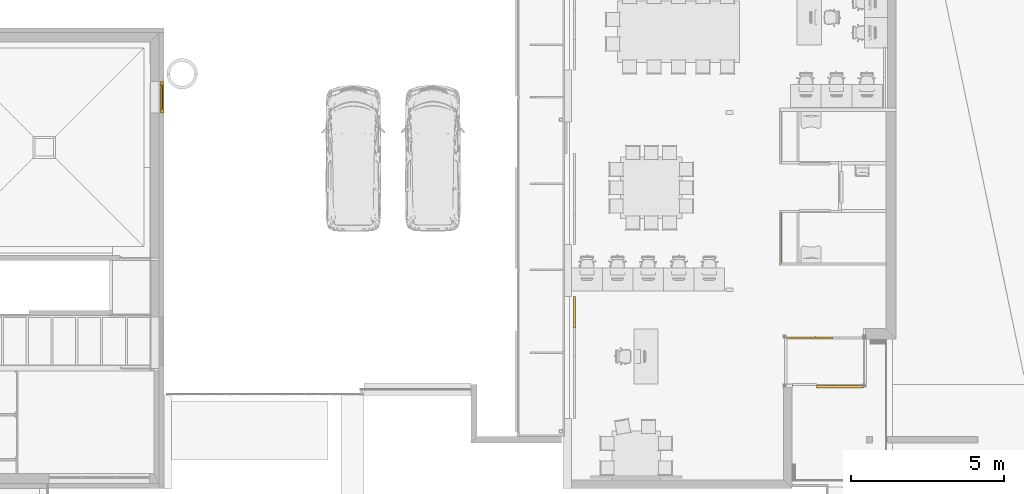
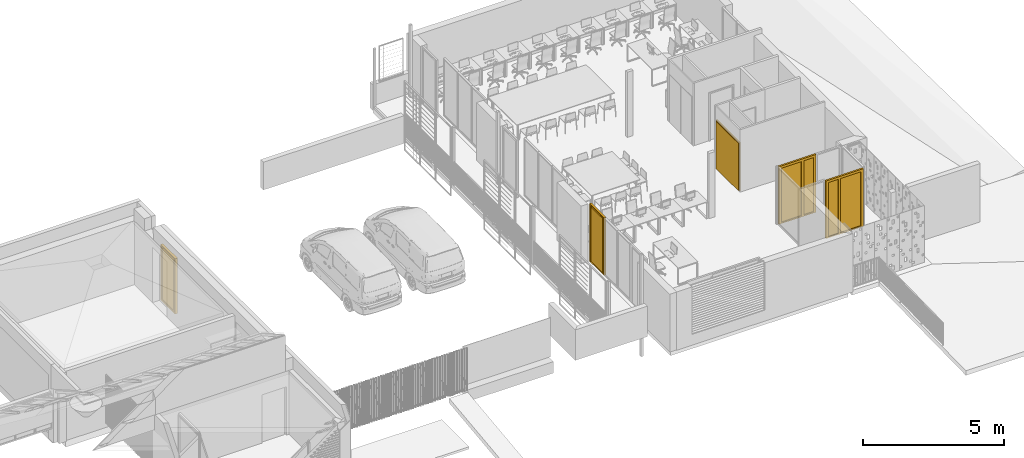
# One storey, part 32 of 51: 4 windows, 1 door.
"""IFC2X3 building model written with IfcOpenShell, lengths in metres."""

from ifc_helpers import new_model, entity, si_unit, converted_unit, derived_unit, direction, frame, origin, place, context, subcontext, project, spatial, faceted_brep, source, transform, mapped, material, type_object, type_shapes, element, save


model = new_model("IFC2X3")

# Units and contexts
model_context = context("Model", 3, precision=1e-05, world=origin(), true_north=direction((6.123031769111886e-17, 1.0)))
body_context = subcontext(model_context, "Body", "Model", "MODEL_VIEW")
ifc_project = project(units=[si_unit("LENGTHUNIT", "METRE"), si_unit("AREAUNIT", "SQUARE_METRE"), si_unit("VOLUMEUNIT", "CUBIC_METRE"), converted_unit("PLANEANGLEUNIT", "DEGREE", entity("IfcRatioMeasure", 0.017453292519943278), si_unit("PLANEANGLEUNIT", "RADIAN"), dimensions=[0, 0, 0, 0, 0, 0, 0]), si_unit("MASSUNIT", "GRAM", prefix="KILO"), derived_unit("MASSDENSITYUNIT", [(si_unit("MASSUNIT", "GRAM", prefix="KILO"), 1), (si_unit("LENGTHUNIT", "METRE"), -3)]), derived_unit("MOMENTOFINERTIAUNIT", [(si_unit("LENGTHUNIT", "METRE"), 4)]), si_unit("TIMEUNIT", "SECOND"), si_unit("FREQUENCYUNIT", "HERTZ"), si_unit("THERMODYNAMICTEMPERATUREUNIT", "DEGREE_CELSIUS"), derived_unit("THERMALTRANSMITTANCEUNIT", [(si_unit("MASSUNIT", "GRAM", prefix="KILO"), 1), (si_unit("THERMODYNAMICTEMPERATUREUNIT", "KELVIN"), -1), (si_unit("TIMEUNIT", "SECOND"), -3)]), derived_unit("THERMALCONDUCTANCEUNIT", [(si_unit("MASSUNIT", "GRAM", prefix="KILO"), 1), (si_unit("LENGTHUNIT", "METRE"), 1), (si_unit("THERMODYNAMICTEMPERATUREUNIT", "KELVIN"), -1), (si_unit("TIMEUNIT", "SECOND"), -3)]), derived_unit("VOLUMETRICFLOWRATEUNIT", [(si_unit("LENGTHUNIT", "METRE"), 3), (si_unit("TIMEUNIT", "SECOND"), -1)]), derived_unit("MASSFLOWRATEUNIT", [(si_unit("MASSUNIT", "GRAM", prefix="KILO"), 1), (si_unit("TIMEUNIT", "SECOND"), -1)]), derived_unit("ROTATIONALFREQUENCYUNIT", [(si_unit("TIMEUNIT", "SECOND"), -1)]), si_unit("ELECTRICCURRENTUNIT", "AMPERE"), si_unit("ELECTRICVOLTAGEUNIT", "VOLT"), si_unit("POWERUNIT", "WATT"), si_unit("FORCEUNIT", "NEWTON", prefix="KILO"), si_unit("ILLUMINANCEUNIT", "LUX"), si_unit("LUMINOUSFLUXUNIT", "LUMEN"), si_unit("LUMINOUSINTENSITYUNIT", "CANDELA"), derived_unit("USERDEFINED", [(si_unit("MASSUNIT", "GRAM", prefix="KILO"), -1), (si_unit("LENGTHUNIT", "METRE"), -2), (si_unit("TIMEUNIT", "SECOND"), 3), (si_unit("LUMINOUSFLUXUNIT", "LUMEN"), 1)]), derived_unit("USERDEFINED", [(si_unit("MASSUNIT", "GRAM", prefix="KILO"), 1), (si_unit("LENGTHUNIT", "METRE"), 3), (si_unit("TIMEUNIT", "SECOND"), -3), (si_unit("ELECTRICCURRENTUNIT", "AMPERE"), -2)]), derived_unit("USERDEFINED", [(si_unit("LENGTHUNIT", "METRE"), 2), (si_unit("TIMEUNIT", "SECOND"), -2)]), derived_unit("SOUNDPOWERUNIT", [(si_unit("MASSUNIT", "GRAM", prefix="KILO"), 1), (si_unit("LENGTHUNIT", "METRE"), 2), (si_unit("TIMEUNIT", "SECOND"), -3)]), derived_unit("SOUNDPRESSUREUNIT", [(si_unit("MASSUNIT", "GRAM", prefix="KILO"), 1), (si_unit("LENGTHUNIT", "METRE"), -1), (si_unit("TIMEUNIT", "SECOND"), -2)]), derived_unit("LINEARVELOCITYUNIT", [(si_unit("LENGTHUNIT", "METRE"), 1), (si_unit("TIMEUNIT", "SECOND"), -1)]), si_unit("PRESSUREUNIT", "PASCAL"), derived_unit("USERDEFINED", [(si_unit("LENGTHUNIT", "METRE"), -2), (si_unit("MASSUNIT", "GRAM", prefix="KILO"), 1), (si_unit("TIMEUNIT", "SECOND"), -2)]), derived_unit("LINEARFORCEUNIT", [(si_unit("MASSUNIT", "GRAM", prefix="KILO"), 1), (si_unit("LENGTHUNIT", "METRE"), 1), (si_unit("TIMEUNIT", "SECOND"), -2), (si_unit("LENGTHUNIT", "METRE"), -1)]), derived_unit("PLANARFORCEUNIT", [(si_unit("MASSUNIT", "GRAM", prefix="KILO"), 1), (si_unit("LENGTHUNIT", "METRE"), 1), (si_unit("TIMEUNIT", "SECOND"), -2), (si_unit("LENGTHUNIT", "METRE"), -2)]), derived_unit("SPECIFICHEATCAPACITYUNIT", [(si_unit("LENGTHUNIT", "METRE"), 2), (si_unit("TIMEUNIT", "SECOND"), -2), (si_unit("THERMODYNAMICTEMPERATUREUNIT", "KELVIN"), -1)]), derived_unit("VAPORPERMEABILITYUNIT", [(si_unit("TIMEUNIT", "SECOND"), 1), (si_unit("LENGTHUNIT", "METRE"), -1)]), derived_unit("DYNAMICVISCOSITYUNIT", [(si_unit("MASSUNIT", "GRAM", prefix="KILO"), 1), (si_unit("LENGTHUNIT", "METRE"), -1), (si_unit("TIMEUNIT", "SECOND"), -1)]), derived_unit("THERMALEXPANSIONCOEFFICIENTUNIT", [(si_unit("THERMODYNAMICTEMPERATUREUNIT", "KELVIN"), -1)])], contexts=[model_context])

# Site, building, storey
site_placement = place(None, origin())
site = spatial("IfcSite", under=ifc_project, at=site_placement, Name="Default", CompositionType="ELEMENT")
building_placement = place(site_placement, origin())
building = spatial("IfcBuilding", under=site, at=building_placement, CompositionType="ELEMENT")
storey_placement = place(building_placement, frame((0.0, 0.0, 3.06)))
storey = spatial("IfcBuildingStorey", under=building, at=storey_placement, Name="ÉTAGE", CompositionType="ELEMENT", Elevation=3.06)

# Windows
ifc_material_1 = material(Name="Peinture - Anthracite")
window_style_1 = type_object("IfcWindowStyle", Name="Fen-003", ConstructionType="NOTDEFINED", OperationType="NOTDEFINED", ParameterTakesPrecedence=False, Sizeable=False, material=ifc_material_1)
shared_shape_1 = source(origin(), body_context, "Body", "Brep", [
    faceted_brep([(1.0300000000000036, -0.0029000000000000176, 0.0), (1.0300000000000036, -0.10290000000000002, 0.0), (0.0, -0.10290000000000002, 0.0), (0.0, -0.0029000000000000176, 0.0), (1.0300000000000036, -0.0029000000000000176, 2.3999999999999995), (1.0300000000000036, -0.10290000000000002, 2.3999999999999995), (0.0, -0.10290000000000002, 2.3999999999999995), (0.9800000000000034, -0.10290000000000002, 0.06000000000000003), (0.05000000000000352, -0.10290000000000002, 0.06000000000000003), (0.05000000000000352, -0.10290000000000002, 2.35), (0.9800000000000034, -0.10290000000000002, 2.35), (0.0, -0.0029000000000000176, 2.3999999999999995), (0.9800000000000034, -0.0029000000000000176, 0.06000000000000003), (0.9800000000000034, -0.0029000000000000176, 2.35), (0.05000000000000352, -0.0029000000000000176, 2.35), (0.05000000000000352, -0.0029000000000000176, 0.06000000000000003), (0.12000000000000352, -0.0029000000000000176, 2.28), (0.12000000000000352, -0.0029000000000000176, 0.11000000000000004), (0.9100000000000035, -0.0029000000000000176, 0.11000000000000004), (0.9100000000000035, -0.0029000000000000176, 2.28), (0.12000000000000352, -0.10290000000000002, 2.28), (0.12000000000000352, -0.10290000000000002, 0.11000000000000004), (0.9100000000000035, -0.10290000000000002, 0.11), (0.9100000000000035, -0.10290000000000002, 2.28), (0.9800000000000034, -0.05290000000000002, 2.35), (0.9800000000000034, -0.05290000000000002, 0.06000000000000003), (0.05000000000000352, -0.05290000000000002, 2.35), (0.05000000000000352, -0.05290000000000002, 0.06000000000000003), (0.9100000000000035, -0.047900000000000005, 0.11), (0.9100000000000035, -0.0579, 0.11), (0.12000000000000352, -0.0579, 0.11), (0.12000000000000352, -0.047900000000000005, 0.11), (0.9100000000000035, -0.047900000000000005, 2.28), (0.9100000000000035, -0.0579, 2.28), (0.12000000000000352, -0.0579, 2.28), (0.12000000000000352, -0.047900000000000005, 2.28)], [[[0, 1, 2, 3]], [[4, 5, 1, 0]], [[1, 5, 6, 2], [7, 8, 9, 10]], [[3, 2, 6, 11]], [[0, 3, 11, 4], [12, 13, 14, 15]], [[11, 6, 5, 4]], [[15, 8, 7, 12]], [[14, 9, 8, 15]], [[13, 10, 9, 14]], [[12, 7, 10, 13]], [[14, 13, 12, 15], [16, 17, 18, 19]], [[14, 9, 10, 13]], [[10, 7, 12, 13]], [[7, 8, 15, 12]], [[15, 8, 9, 14]], [[16, 20, 21, 17]], [[21, 22, 18, 17]], [[22, 23, 19, 18]], [[19, 23, 20, 16]], [[10, 9, 8, 7], [21, 20, 23, 22]], [[12, 13, 24, 25]], [[15, 14, 26, 27]], [[12, 15, 27, 25]], [[13, 14, 26, 24]], [[25, 24, 10, 7]], [[27, 26, 9, 8]], [[25, 27, 8, 7]], [[24, 26, 9, 10]], [[28, 29, 30, 31]], [[32, 33, 29, 28]], [[29, 33, 34, 30]], [[31, 30, 34, 35]], [[28, 31, 35, 32]], [[35, 34, 33, 32]]]),
])
type_shapes(window_style_1, [shared_shape_1])
window_1_placement = place(storey_placement, frame((128.34865227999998, 20.90720948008, 0.0), z_axis=(0.0, 0.0, 1.0), x_axis=(0.0, -1.0, 0.0)))
element("IfcWindow", 1, at=window_1_placement, inside=storey, type_object=window_style_1, material=ifc_material_1, Name="Fen-003 240871:Fen-003 240871", ObjectType="Fen-003 240871:Fen-003 240871", OverallHeight=2.3999999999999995, OverallWidth=1.0300000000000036, context=body_context, shape_type="MappedRepresentation", body=[
    mapped(shared_shape_1, transform((0.0, 0.0, 0.0), scale=1.0)),
])
ifc_material_2 = material(Name="Transp. - Verre clair (rapide)")
window_style_2 = type_object("IfcWindowStyle", Name="Fen-003", ConstructionType="NOTDEFINED", OperationType="NOTDEFINED", ParameterTakesPrecedence=False, Sizeable=False, material=ifc_material_2)
shared_shape_2 = source(origin(), body_context, "Body", "Brep", [
    faceted_brep([(1.0299999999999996, -0.5628, 0.0), (0.0, -0.5628, 0.0), (0.0, -0.49279999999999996, 0.0), (1.0299999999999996, -0.49279999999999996, 0.0), (1.0299999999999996, -0.5628, 2.499999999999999), (0.0, -0.5628, 2.499999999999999), (0.9799999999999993, -0.5628, 0.0), (0.04999999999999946, -0.5628, 0.0), (0.04999999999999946, -0.5628, 2.4499999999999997), (0.9799999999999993, -0.5628, 2.4499999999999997), (0.0, -0.49279999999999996, 2.499999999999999), (1.0299999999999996, -0.49279999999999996, 2.499999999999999), (0.9799999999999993, -0.49279999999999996, 0.0), (0.9799999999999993, -0.49279999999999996, 2.4499999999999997), (0.04999999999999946, -0.49279999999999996, 2.4499999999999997), (0.04999999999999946, -0.49279999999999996, 0.0), (0.09999999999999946, -0.5628, 2.399999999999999), (0.9299999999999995, -0.5628, 2.399999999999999), (0.9299999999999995, -0.5628, 0.049999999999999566), (0.09999999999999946, -0.5628, 0.049999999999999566), (0.09999999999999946, -0.49279999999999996, 2.399999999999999), (0.9299999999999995, -0.49279999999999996, 2.399999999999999), (0.9299999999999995, -0.49279999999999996, 0.049999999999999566), (0.09999999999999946, -0.49279999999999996, 0.049999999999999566), (0.9799999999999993, -0.5277999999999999, 0.0), (0.9799999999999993, -0.5277999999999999, 2.4499999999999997), (0.04999999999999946, -0.5277999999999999, 0.0), (0.04999999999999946, -0.5277999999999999, 2.4499999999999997), (0.9299999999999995, -0.5328, 0.049999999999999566), (0.09999999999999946, -0.5328, 0.049999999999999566), (0.09999999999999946, -0.5228, 0.049999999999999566), (0.9299999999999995, -0.5228, 0.049999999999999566), (0.9299999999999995, -0.5328, 2.399999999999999), (0.09999999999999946, -0.5328, 2.399999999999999), (0.09999999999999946, -0.5228, 2.399999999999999), (0.9299999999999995, -0.5228, 2.399999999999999)], [[[0, 1, 2, 3]], [[0, 4, 5, 1], [6, 7, 8, 9]], [[1, 5, 10, 2]], [[3, 2, 10, 11], [12, 13, 14, 15]], [[4, 0, 3, 11]], [[5, 4, 11, 10]], [[7, 6, 12, 15]], [[8, 7, 15, 14]], [[9, 8, 14, 13]], [[6, 9, 13, 12]], [[8, 7, 6, 9], [16, 17, 18, 19]], [[7, 8, 14, 15]], [[12, 6, 7, 15]], [[13, 9, 6, 12]], [[8, 9, 13, 14]], [[17, 16, 20, 21]], [[22, 18, 17, 21]], [[23, 19, 18, 22]], [[16, 19, 23, 20]], [[13, 12, 15, 14], [23, 22, 21, 20]], [[6, 24, 25, 9]], [[7, 26, 27, 8]], [[6, 24, 26, 7]], [[9, 25, 27, 8]], [[24, 12, 13, 25]], [[26, 15, 14, 27]], [[24, 12, 15, 26]], [[25, 13, 14, 27]], [[28, 29, 30, 31]], [[28, 32, 33, 29]], [[29, 33, 34, 30]], [[31, 30, 34, 35]], [[32, 28, 31, 35]], [[33, 32, 35, 34]]]),
])
type_shapes(window_style_2, [shared_shape_2])
window_2_placement = place(storey_placement, frame((141.25795228, 12.847160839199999, 1.2099999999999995), z_axis=(0.0, 0.0, 1.0), x_axis=(0.0, 1.0, 0.0)))
element("IfcWindow", 2, at=window_2_placement, inside=storey, type_object=window_style_2, material=ifc_material_2, Name="Fen-003 260509:Fen-003 260509", ObjectType="Fen-003 260509:Fen-003 260509", OverallHeight=2.5, OverallWidth=1.0300000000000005, context=body_context, shape_type="MappedRepresentation", body=[
    mapped(shared_shape_2, transform((0.0, 0.0, 0.0), scale=1.0)),
])
window_style_3 = type_object("IfcWindowStyle", Name="Fen-003", ConstructionType="NOTDEFINED", OperationType="NOTDEFINED", ParameterTakesPrecedence=False, Sizeable=False, material=ifc_material_2)
shared_shape_3 = source(origin(), body_context, "Body", "Brep", [
    faceted_brep([(1.5300000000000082, 0.0007000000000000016, 0.0), (0.0, 0.0007000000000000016, 0.0), (0.0, 0.0707, 0.0), (1.5300000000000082, 0.0707, 0.0), (1.5300000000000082, 0.0007000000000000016, 2.499999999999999), (0.0, 0.0007000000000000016, 2.499999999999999), (1.480000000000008, 0.0007000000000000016, 0.0), (0.05000000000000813, 0.0007000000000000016, 0.0), (0.05000000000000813, 0.0007000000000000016, 2.4499999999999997), (1.480000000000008, 0.0007000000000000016, 2.4499999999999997), (0.0, 0.0707, 2.499999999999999), (1.5300000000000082, 0.0707, 2.499999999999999), (1.480000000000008, 0.0707, 0.0), (1.480000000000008, 0.0707, 2.4499999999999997), (0.05000000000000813, 0.0707, 2.4499999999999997), (0.05000000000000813, 0.0707, 0.0), (0.979900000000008, 0.0007000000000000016, 0.0), (0.979900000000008, 0.0007000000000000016, 2.4499999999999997), (0.10000000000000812, 0.0007000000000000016, 2.399999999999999), (0.9300000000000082, 0.0007000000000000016, 2.399999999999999), (0.9300000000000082, 0.0007000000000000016, 0.049999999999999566), (0.10000000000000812, 0.0007000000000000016, 0.049999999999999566), (0.979900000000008, 0.0707, 0.0), (0.979900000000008, 0.0707, 2.4499999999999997), (0.10000000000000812, 0.0707, 2.399999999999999), (0.9300000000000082, 0.0707, 2.399999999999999), (0.9300000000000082, 0.0707, 0.049999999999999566), (0.10000000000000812, 0.0707, 0.049999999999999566), (0.05000000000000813, 0.035699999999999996, 0.0), (0.05000000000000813, 0.035699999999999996, 2.4499999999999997), (0.979900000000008, 0.035699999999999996, 0.0), (0.979900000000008, 0.035699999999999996, 2.4499999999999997), (0.9300000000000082, 0.0307, 0.049999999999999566), (0.10000000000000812, 0.0307, 0.049999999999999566), (0.10000000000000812, 0.0407, 0.049999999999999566), (0.9300000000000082, 0.0407, 0.049999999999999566), (0.9300000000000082, 0.0307, 2.399999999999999), (0.10000000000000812, 0.0307, 2.399999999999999), (0.10000000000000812, 0.0407, 2.399999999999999), (0.9300000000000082, 0.0407, 2.399999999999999), (0.9675000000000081, 0.0708, 0.002999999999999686), (0.9675000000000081, 0.0708, 2.446999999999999), (0.9675000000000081, 0.09069999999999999, 2.446999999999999), (0.9675000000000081, 0.09069999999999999, 0.002999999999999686), (0.9925000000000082, 0.0708, 0.002999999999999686), (0.9925000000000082, 0.0708, 2.446999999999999), (0.9925000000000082, 0.09069999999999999, 2.446999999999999), (0.9925000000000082, 0.09069999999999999, 0.002999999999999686), (0.980000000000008, 0.0007000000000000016, 2.4499999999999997), (0.980000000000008, 0.0007000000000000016, 0.0), (1.430000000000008, 0.0007000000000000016, 2.399999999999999), (1.430000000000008, 0.0007000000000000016, 0.049999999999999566), (1.0300000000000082, 0.0007000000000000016, 0.049999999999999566), (1.0300000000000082, 0.0007000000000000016, 2.399999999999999), (0.980000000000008, 0.0707, 2.4499999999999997), (0.980000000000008, 0.0707, 0.0), (1.430000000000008, 0.0707, 2.399999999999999), (1.430000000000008, 0.0707, 0.049999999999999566), (1.0300000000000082, 0.0707, 0.049999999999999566), (1.0300000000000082, 0.0707, 2.399999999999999), (0.980000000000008, 0.035699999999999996, 2.4499999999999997), (0.980000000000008, 0.035699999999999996, 0.0), (1.480000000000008, 0.035699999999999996, 2.4499999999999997), (1.480000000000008, 0.035699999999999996, 0.0), (1.0300000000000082, 0.0307, 0.049999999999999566), (1.0300000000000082, 0.0407, 0.049999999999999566), (1.430000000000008, 0.0407, 0.049999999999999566), (1.430000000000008, 0.0307, 0.049999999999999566), (1.0300000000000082, 0.0307, 2.399999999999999), (1.0300000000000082, 0.0407, 2.399999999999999), (1.430000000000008, 0.0407, 2.399999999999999), (1.430000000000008, 0.0307, 2.399999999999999)], [[[0, 1, 2, 3]], [[0, 4, 5, 1], [6, 7, 8, 9]], [[1, 5, 10, 2]], [[3, 2, 10, 11], [12, 13, 14, 15]], [[4, 0, 3, 11]], [[5, 4, 11, 10]], [[7, 6, 12, 15]], [[8, 7, 15, 14]], [[9, 8, 14, 13]], [[6, 9, 13, 12]], [[8, 7, 16, 17], [18, 19, 20, 21]], [[7, 8, 14, 15]], [[16, 7, 15, 22]], [[16, 22, 23, 17]], [[8, 17, 23, 14]], [[19, 18, 24, 25]], [[26, 20, 19, 25]], [[27, 21, 20, 26]], [[18, 21, 27, 24]], [[22, 15, 14, 23], [27, 26, 25, 24]], [[7, 28, 29, 8]], [[30, 28, 7, 16]], [[31, 29, 8, 17]], [[28, 15, 14, 29]], [[22, 15, 28, 30]], [[23, 14, 29, 31]], [[32, 33, 34, 35]], [[32, 36, 37, 33]], [[33, 37, 38, 34]], [[35, 34, 38, 39]], [[36, 32, 35, 39]], [[37, 36, 39, 38]], [[40, 41, 42, 43]], [[44, 45, 41, 40]], [[41, 45, 46, 42]], [[43, 42, 46, 47]], [[40, 43, 47, 44]], [[47, 46, 45, 44]], [[9, 48, 49, 6], [50, 51, 52, 53]], [[9, 13, 54, 48]], [[54, 55, 49, 48]], [[55, 12, 6, 49]], [[6, 12, 13, 9]], [[50, 56, 57, 51]], [[57, 58, 52, 51]], [[58, 59, 53, 52]], [[53, 59, 56, 50]], [[54, 13, 12, 55], [57, 56, 59, 58]], [[49, 48, 60, 61]], [[6, 9, 62, 63]], [[49, 6, 63, 61]], [[48, 9, 62, 60]], [[61, 60, 54, 55]], [[63, 62, 13, 12]], [[61, 63, 12, 55]], [[60, 62, 13, 54]], [[64, 65, 66, 67]], [[68, 69, 65, 64]], [[65, 69, 70, 66]], [[67, 66, 70, 71]], [[64, 67, 71, 68]], [[71, 70, 69, 68]]]),
])
type_shapes(window_style_3, [shared_shape_3])
window_3_placement = place(storey_placement, frame((148.69075228, 12.481509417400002, 1.2099999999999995)))
element("IfcWindow", 3, at=window_3_placement, inside=storey, type_object=window_style_3, material=ifc_material_2, Name="Fen-003 277032:Fen-003 277032", ObjectType="Fen-003 277032:Fen-003 277032", OverallHeight=2.5, OverallWidth=1.5300000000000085, context=body_context, shape_type="MappedRepresentation", body=[
    mapped(shared_shape_3, transform((0.0, 0.0, 0.0), scale=1.0)),
])
window_style_4 = type_object("IfcWindowStyle", Name="Fen-003", ConstructionType="NOTDEFINED", OperationType="NOTDEFINED", ParameterTakesPrecedence=False, Sizeable=False, material=ifc_material_2)
shared_shape_4 = source(origin(), body_context, "Body", "Brep", [
    faceted_brep([(0.0, -0.1407, 0.0), (0.0, -0.0707, 0.0), (1.5300000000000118, -0.0707, 0.0), (1.5300000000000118, -0.1407, 0.0), (0.0, -0.1407, 2.499999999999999), (0.0, -0.0707, 2.499999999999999), (1.5300000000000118, -0.0707, 2.499999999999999), (0.05000000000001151, -0.0707, 0.0), (1.480000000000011, -0.0707, 0.0), (1.480000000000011, -0.0707, 2.4499999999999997), (0.05000000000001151, -0.0707, 2.4499999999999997), (1.5300000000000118, -0.1407, 2.499999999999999), (0.05000000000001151, -0.1407, 0.0), (0.05000000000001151, -0.1407, 2.4499999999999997), (1.480000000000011, -0.1407, 2.4499999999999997), (1.480000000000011, -0.1407, 0.0), (0.5501000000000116, -0.1407, 2.4499999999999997), (0.5501000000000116, -0.1407, 0.0), (1.4300000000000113, -0.1407, 2.399999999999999), (1.4300000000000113, -0.1407, 0.04999999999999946), (0.6000000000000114, -0.1407, 0.04999999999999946), (0.6000000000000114, -0.1407, 2.399999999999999), (0.5501000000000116, -0.0707, 2.4499999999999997), (0.5501000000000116, -0.0707, 0.0), (1.4300000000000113, -0.0707, 2.399999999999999), (1.4300000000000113, -0.0707, 0.04999999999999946), (0.6000000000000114, -0.0707, 0.04999999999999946), (0.6000000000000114, -0.0707, 2.399999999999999), (1.480000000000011, -0.1057, 2.4499999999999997), (1.480000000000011, -0.1057, 0.0), (0.5501000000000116, -0.1057, 0.0), (0.5501000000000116, -0.1057, 2.4499999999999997), (0.6000000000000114, -0.1107, 0.04999999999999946), (0.6000000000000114, -0.1007, 0.04999999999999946), (1.4300000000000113, -0.1007, 0.04999999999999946), (1.4300000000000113, -0.1107, 0.04999999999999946), (0.6000000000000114, -0.1107, 2.399999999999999), (0.6000000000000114, -0.1007, 2.399999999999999), (1.4300000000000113, -0.1007, 2.399999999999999), (1.4300000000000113, -0.1107, 2.399999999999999), (0.5625000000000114, -0.0706000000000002, 0.002999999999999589), (0.5625000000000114, -0.050699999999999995, 0.002999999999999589), (0.5625000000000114, -0.050699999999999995, 2.446999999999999), (0.5625000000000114, -0.0706000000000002, 2.446999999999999), (0.5375000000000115, -0.0706000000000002, 0.002999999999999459), (0.5375000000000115, -0.050699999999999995, 0.002999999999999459), (0.5375000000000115, -0.050699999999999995, 2.446999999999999), (0.5375000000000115, -0.0706000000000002, 2.446999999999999), (0.5500000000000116, -0.1407, 0.0), (0.5500000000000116, -0.1407, 2.4499999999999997), (0.10000000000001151, -0.1407, 2.399999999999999), (0.5000000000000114, -0.1407, 2.399999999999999), (0.5000000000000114, -0.1407, 0.04999999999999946), (0.10000000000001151, -0.1407, 0.04999999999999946), (0.5500000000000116, -0.0707, 0.0), (0.5500000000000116, -0.0707, 2.4499999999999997), (0.10000000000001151, -0.0707, 2.399999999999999), (0.5000000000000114, -0.0707, 2.399999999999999), (0.5000000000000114, -0.0707, 0.04999999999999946), (0.10000000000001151, -0.0707, 0.04999999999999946), (0.5500000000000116, -0.1057, 0.0), (0.5500000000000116, -0.1057, 2.4499999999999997), (0.05000000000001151, -0.1057, 0.0), (0.05000000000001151, -0.1057, 2.4499999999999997), (0.5000000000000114, -0.1107, 0.04999999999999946), (0.10000000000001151, -0.1107, 0.04999999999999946), (0.10000000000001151, -0.1007, 0.04999999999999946), (0.5000000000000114, -0.1007, 0.04999999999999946), (0.5000000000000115, -0.1107, 2.399999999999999), (0.10000000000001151, -0.1107, 2.399999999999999), (0.10000000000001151, -0.1007, 2.399999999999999), (0.5000000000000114, -0.1007, 2.399999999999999)], [[[0, 1, 2, 3]], [[4, 5, 1, 0]], [[1, 5, 6, 2], [7, 8, 9, 10]], [[3, 2, 6, 11]], [[0, 3, 11, 4], [12, 13, 14, 15]], [[11, 6, 5, 4]], [[15, 8, 7, 12]], [[14, 9, 8, 15]], [[13, 10, 9, 14]], [[12, 7, 10, 13]], [[14, 16, 17, 15], [18, 19, 20, 21]], [[14, 9, 22, 16]], [[17, 16, 22, 23]], [[17, 23, 8, 15]], [[15, 8, 9, 14]], [[18, 24, 25, 19]], [[25, 26, 20, 19]], [[26, 27, 21, 20]], [[21, 27, 24, 18]], [[23, 22, 9, 8], [25, 24, 27, 26]], [[15, 14, 28, 29]], [[30, 17, 15, 29]], [[31, 16, 14, 28]], [[29, 28, 9, 8]], [[23, 30, 29, 8]], [[22, 31, 28, 9]], [[32, 33, 34, 35]], [[36, 37, 33, 32]], [[33, 37, 38, 34]], [[35, 34, 38, 39]], [[32, 35, 39, 36]], [[39, 38, 37, 36]], [[40, 41, 42, 43]], [[40, 44, 45, 41]], [[41, 45, 46, 42]], [[43, 42, 46, 47]], [[44, 40, 43, 47]], [[45, 44, 47, 46]], [[13, 12, 48, 49], [50, 51, 52, 53]], [[12, 13, 10, 7]], [[54, 48, 12, 7]], [[55, 49, 48, 54]], [[13, 49, 55, 10]], [[51, 50, 56, 57]], [[58, 52, 51, 57]], [[59, 53, 52, 58]], [[50, 53, 59, 56]], [[55, 54, 7, 10], [59, 58, 57, 56]], [[48, 60, 61, 49]], [[12, 62, 63, 13]], [[48, 60, 62, 12]], [[49, 61, 63, 13]], [[60, 54, 55, 61]], [[62, 7, 10, 63]], [[60, 54, 7, 62]], [[61, 55, 10, 63]], [[64, 65, 66, 67]], [[64, 68, 69, 65]], [[65, 69, 70, 66]], [[67, 66, 70, 71]], [[68, 64, 67, 71]], [[69, 68, 71, 70]]]),
])
type_shapes(window_style_4, [shared_shape_4])
window_4_placement = place(storey_placement, frame((149.70075231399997, 11.022909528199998, 1.2099999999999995)))
element("IfcWindow", 4, at=window_4_placement, inside=storey, type_object=window_style_4, material=ifc_material_2, Name="Fen-003 278542:Fen-003 278542", ObjectType="Fen-003 278542:Fen-003 278542", OverallHeight=2.5, OverallWidth=1.5300000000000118, context=body_context, shape_type="MappedRepresentation", body=[
    mapped(shared_shape_4, transform((0.0, 0.0, 0.0), scale=1.0)),
])

# Door
ifc_material_3 = material(Name="Peinture - Gris clair")
door_style = type_object("IfcDoorStyle", Name="Por-004", ConstructionType="NOTDEFINED", OperationType="DOUBLE_DOOR_SINGLE_SWING", ParameterTakesPrecedence=False, Sizeable=False, material=ifc_material_3)
shared_shape_5 = source(origin(), body_context, "Body", "Brep", [
    faceted_brep([(1.6500000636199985, -0.051000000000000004, 0.0), (1.6150000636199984, -0.051000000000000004, 0.0), (1.6150000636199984, -0.051000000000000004, 2.0549999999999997), (0.03499999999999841, -0.051000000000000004, 2.0549999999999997), (0.03499999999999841, -0.051000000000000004, 0.0), (0.0, -0.051000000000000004, 0.0), (0.0, -0.051000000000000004, 2.089999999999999), (1.6500000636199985, -0.051000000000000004, 2.089999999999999), (1.6500000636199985, -0.10100000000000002, 0.0), (1.6000000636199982, -0.10100000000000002, 0.0), (1.6000000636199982, -0.066, 0.0), (1.6150000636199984, -0.066, 0.0), (1.6150000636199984, -0.066, 2.0549999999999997), (0.03499999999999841, -0.066, 2.0549999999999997), (0.03499999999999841, -0.066, 0.0), (0.04999999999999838, -0.066, 0.0), (0.04999999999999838, -0.10100000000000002, 0.0), (0.0, -0.10100000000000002, 0.0), (0.0, -0.10100000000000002, 2.089999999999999), (1.6500000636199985, -0.10100000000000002, 2.089999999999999), (0.04999999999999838, -0.10100000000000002, 2.0399999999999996), (1.6000000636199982, -0.10100000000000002, 2.0399999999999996), (1.6000000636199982, -0.066, 2.0399999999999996), (0.04999999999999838, -0.066, 2.0399999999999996), (0.03749999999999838, -0.026000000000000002, 0.0), (0.8225000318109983, -0.026000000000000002, 0.0), (0.8225000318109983, -0.066, 0.0), (0.03749999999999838, -0.066, 0.0), (0.03749999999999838, -0.026000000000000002, 2.0549999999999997), (0.8225000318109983, -0.026000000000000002, 2.0549999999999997), (0.8225000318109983, -0.066, 2.0549999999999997), (0.03749999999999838, -0.066, 2.0549999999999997), (1.6150000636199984, -0.026000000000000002, 0.0), (0.8250000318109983, -0.066, 0.0), (0.8250000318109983, -0.026000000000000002, 0.0), (1.6150000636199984, -0.026000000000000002, 2.0549999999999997), (0.8250000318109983, -0.066, 2.0549999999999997), (0.8250000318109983, -0.026000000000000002, 2.0549999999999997), (0.8400000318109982, -0.021000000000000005, 0.0), (0.8100000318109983, -0.021000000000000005, 0.0), (0.8100000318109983, -0.021000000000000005, 2.0549999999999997), (0.8400000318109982, -0.021000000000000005, 2.0549999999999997), (0.8400000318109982, -0.026000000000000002, 0.0), (0.8100000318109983, -0.026000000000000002, 0.0), (0.8100000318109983, -0.026000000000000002, 2.0549999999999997), (0.8400000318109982, -0.026000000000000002, 2.0549999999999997)], [[[0, 1, 2, 3, 4, 5, 6, 7]], [[0, 8, 9, 10, 11, 1]], [[1, 11, 12, 2]], [[2, 12, 13, 3]], [[3, 13, 14, 4]], [[5, 4, 14, 15, 16, 17]], [[18, 6, 5, 17]], [[19, 7, 6, 18]], [[8, 0, 7, 19]], [[9, 8, 19, 18, 17, 16, 20, 21]], [[10, 9, 21, 22]], [[11, 10, 22, 23, 15, 14, 13, 12]], [[23, 20, 16, 15]], [[22, 21, 20, 23]], [[24, 25, 26, 27]], [[24, 28, 29, 25]], [[25, 29, 30, 26]], [[27, 26, 30, 31]], [[28, 24, 27, 31]], [[29, 28, 31, 30]], [[32, 11, 33, 34]], [[35, 12, 11, 32]], [[11, 12, 36, 33]], [[34, 33, 36, 37]], [[32, 34, 37, 35]], [[37, 36, 12, 35]], [[38, 39, 40, 41]], [[39, 38, 42, 43]], [[40, 39, 43, 44]], [[41, 40, 44, 45]], [[38, 41, 45, 42]], [[43, 42, 45, 44]]]),
])
type_shapes(door_style, [shared_shape_5])
door_placement = place(storey_placement, frame((148.46475225, 14.967209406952, 1.2099999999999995), z_axis=(0.0, 0.0, 1.0), x_axis=(0.0, 1.0, 0.0)))
element("IfcDoor", 5, at=door_placement, inside=storey, type_object=door_style, material=ifc_material_3, Name="Por-004 446802:Por-004 446802", ObjectType="Por-004 446802:Por-004 446802", OverallHeight=2.0900000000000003, OverallWidth=1.650000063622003, context=body_context, shape_type="MappedRepresentation", body=[
    mapped(shared_shape_5, transform((0.0, 0.0, 0.0), scale=1.0)),
])

save(model, "model.ifc")
